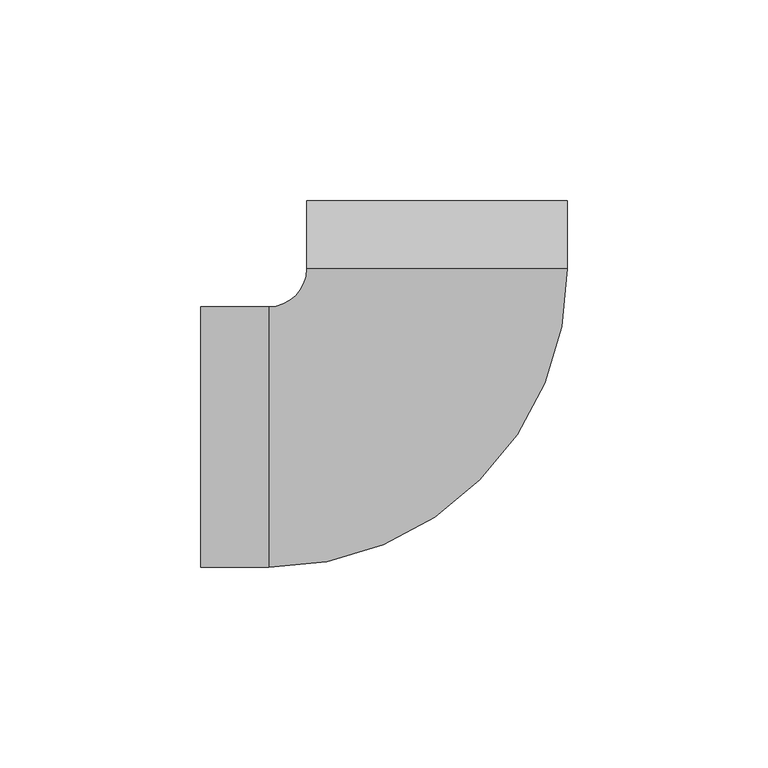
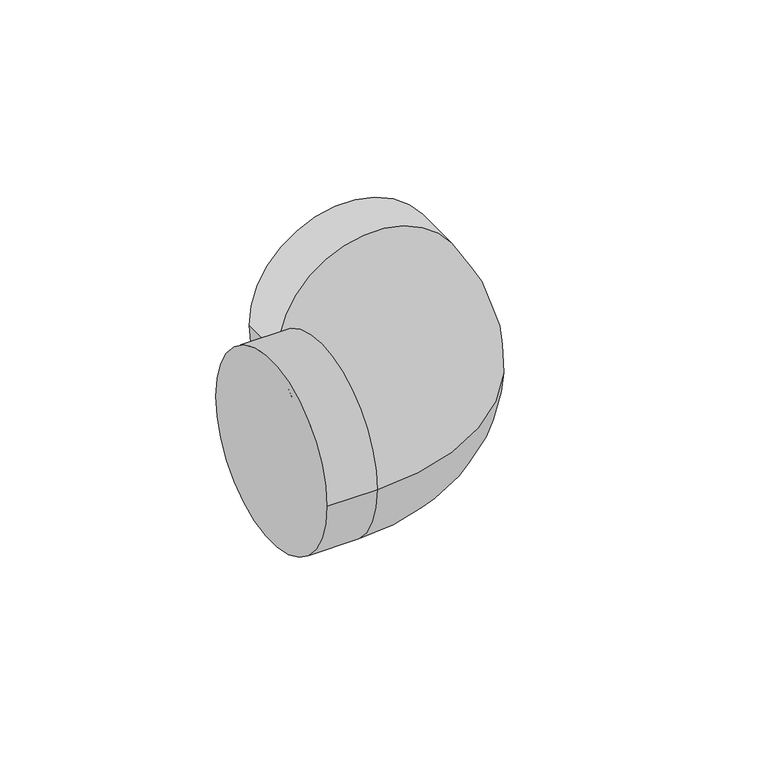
"""IFC4 building model written with IfcOpenShell, lengths in millimetres: pipe fitting geometry, PipeFitting_GirpiHTA_CPVC_Elbows_ForExpansionJoints : PipeFitting_GirpiHTA_CPVC_Elbows_ForExpansionJoints."""

from ifc_helpers import new_model, si_unit, point, frame, origin, place, context, project, spatial, circle_curve, ellipse_curve, trimmed, source, transform, mapped, element, save
from ifc_brep_helpers import plane_surface, cylinder_surface, revolved_surface, advanced_brep


def pipe_fitting_78fec043(model_context):
    return source(origin(), model_context, "Body", "AdvancedBrep", [
        advanced_brep(
        [(-59.0, -32.5, 0.0), (-59.0, 32.5, 0.0), (-42.0, -32.5, 0.0), (-42.0, 32.5, 0.0), (-32.5, 42.0, 0.0), (32.5, 42.0, 0.0), (32.5, 59.0, 0.0), (-32.5, 59.0, 0.0)],
        [
            (0, 1, circle_curve(frame((-59.0, 0.0, 0.0), z_axis=(-1.0, 0.0, 0.0), x_axis=(0.0, 1.0, 0.0)), 32.5)),
            (1, 0, circle_curve(frame((-59.0, 0.0, 0.0), z_axis=(-1.0, 0.0, 0.0), x_axis=(0.0, 1.0, 0.0)), 32.5)),
            (0, 2),
            (2, 3, circle_curve(frame((-42.0, 0.0, 0.0), z_axis=(-1.0, 0.0, 0.0), x_axis=(0.0, 1.0, 0.0)), 32.5)),
            (3, 1),
            (3, 2, circle_curve(frame((-42.0, 0.0, 0.0), z_axis=(-1.0, 0.0, 0.0), x_axis=(0.0, 1.0, 0.0)), 32.5)),
            (4, 3, circle_curve(frame((-42.0, 42.0, 0.0), z_axis=(0.0, 0.0, -1.0), x_axis=(0.0, -1.0, 0.0)), 9.5)),
            (2, 5, circle_curve(frame((-42.0, 42.0, 0.0), z_axis=(0.0, 0.0, 1.0), x_axis=(0.0, -1.0, 0.0)), 74.5)),
            (5, 4, circle_curve(frame((0.0, 42.0, 0.0), z_axis=(0.0, -1.0, 0.0), x_axis=(-1.0, 0.0, 0.0)), 32.5)),
            (4, 5, circle_curve(frame((0.0, 42.0, 0.0), z_axis=(0.0, -1.0, 0.0), x_axis=(-1.0, 0.0, 0.0)), 32.5)),
            (6, 7, circle_curve(frame((0.0, 59.0, 0.0), z_axis=(0.0, 1.0, 0.0), x_axis=(-1.0, 0.0, 0.0)), 32.5)),
            (7, 6, circle_curve(frame((0.0, 59.0, 0.0), z_axis=(0.0, 1.0, 0.0), x_axis=(-1.0, 0.0, 0.0)), 32.5)),
            (5, 6),
            (7, 4),
        ],
        [
            plane_surface(frame((-59.0, 0.0, 0.0), z_axis=(-1.0, 0.0, 0.0), x_axis=(0.0, 0.0, 1.0))),
            cylinder_surface(frame((-59.0, 0.0, 0.0), z_axis=(-1.0, 0.0, 0.0), x_axis=(0.0, 1.0, 0.0)), 32.5),
            revolved_surface(trimmed(ellipse_curve(frame((-42.0, 0.0, 0.0), z_axis=(-1.0, 0.0, 0.0), x_axis=(0.0, 1.0, 0.0)), 32.5, 32.5), [point((-42.0, -32.5, 0.0))], [point((-42.0, 32.5, 0.0))], True, "CARTESIAN"), (-42.0, 42.0, 0.0), (0.0, 0.0, 1.0)),
            revolved_surface(trimmed(ellipse_curve(frame((-42.0, 0.0, 0.0), z_axis=(-1.0, 0.0, 0.0), x_axis=(0.0, 1.0, 0.0)), 32.5, 32.5), [point((-42.0, 32.5, 0.0))], [point((-42.0, -32.5, 0.0))], True, "CARTESIAN"), (-42.0, 42.0, 0.0), (0.0, 0.0, 1.0)),
            plane_surface(frame((0.0, 59.0, 0.0), z_axis=(0.0, 1.0, 0.0), x_axis=(0.0, 0.0, 1.0))),
            cylinder_surface(frame((0.0, 42.0, 0.0), z_axis=(0.0, -1.0, 0.0), x_axis=(-1.0, 0.0, 0.0)), 32.5),
        ],
        [
            (0, [[1, 2]]),
            (1, [[-1, 3, 4, 5]]),
            (1, [[-2, -5, 6, -3]]),
            (2, [[7, -4, 8, 9]]),
            (3, [[-8, -6, -7, 10]]),
            (4, [[11, 12]]),
            (5, [[-9, 13, -12, 14]]),
            (5, [[-10, -14, -11, -13]]),
        ],
    ),
    ])


if __name__ == "__main__":
    model = new_model("IFC4")
    model_context = context("Model", 3, world=origin())
    ifc_project = project(units=[si_unit("LENGTHUNIT", "METRE", prefix="MILLI")], contexts=[model_context])
    site = spatial("IfcSite", under=ifc_project)
    building = spatial("IfcBuilding", under=site)
    placement = place(None, origin())
    pipe_fitting_shape = pipe_fitting_78fec043(model_context)
    element("IfcPipeFitting", 1, ObjectType="PipeFitting_GirpiHTA_CPVC_Elbows_ForExpansionJoints : PipeFitting_GirpiHTA_CPVC_Elbows_ForExpansionJoints", at=placement, inside=building, context=model_context, shape_type="MappedRepresentation", body=[
        mapped(pipe_fitting_shape, transform((0.0, 0.0, 0.0), x_axis=(1.0, 0.0, 0.0), y_axis=(0.0, 1.0, 0.0), z_axis=(0.0, 0.0, 1.0))),
    ])
    save(model, "model.ifc")
